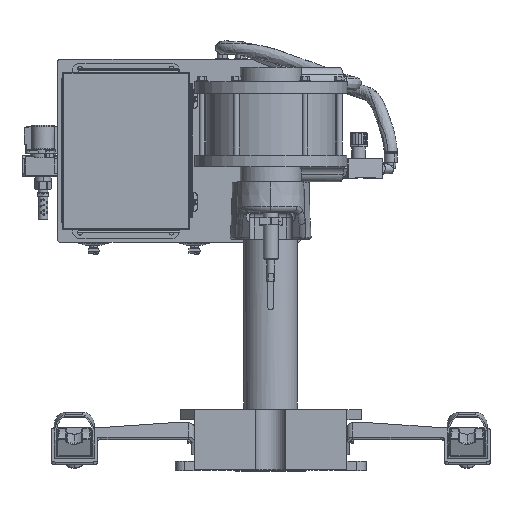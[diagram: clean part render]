
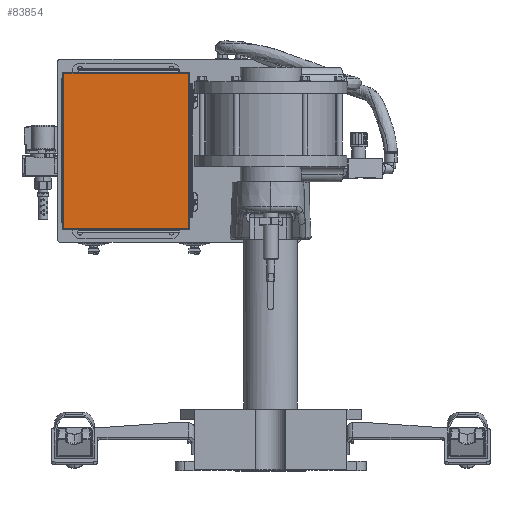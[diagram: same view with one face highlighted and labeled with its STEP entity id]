
A CAD part, top view. The second image highlights one B-rep face of the part: STEP entity #83854.
In plain terms, the highlighted planar face has unit normal (0, 0, 1) as drawn and (0.927, 0.375, 0) by its records, which use the part's own axes.
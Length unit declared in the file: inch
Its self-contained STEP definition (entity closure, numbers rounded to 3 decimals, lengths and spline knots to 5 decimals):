
#1913 = DIRECTION ( 'NONE',  ( 0., 0., -1. ) ) ;
#4133 = CARTESIAN_POINT ( 'NONE',  ( -12.9937, 8.45645, 8.6227 ) ) ;
#8228 = LINE ( 'NONE', #87511, #118083 ) ;
#13113 = EDGE_LOOP ( 'NONE', ( #50594, #113285, #40674, #138607 ) ) ;
#14345 = CARTESIAN_POINT ( 'NONE',  ( -16.83342, 17.96008, 8.6227 ) ) ;
#23446 = VECTOR ( 'NONE', #82101, 39.37008 ) ;
#39171 = EDGE_CURVE ( 'NONE', #98837, #146266, #69212, .T. ) ;
#40674 = ORIENTED_EDGE ( 'NONE', *, *, #82032, .F. ) ;
#43505 = VECTOR ( 'NONE', #1913, 39.37008 ) ;
#50594 = ORIENTED_EDGE ( 'NONE', *, *, #89452, .F. ) ;
#53091 = CARTESIAN_POINT ( 'NONE',  ( -16.83342, 17.96008, 0.3727 ) ) ;
#59702 = CARTESIAN_POINT ( 'NONE',  ( -13.01243, 8.50281, 0.3727 ) ) ;
#65689 = VECTOR ( 'NONE', #118861, 39.37008 ) ;
#69212 = LINE ( 'NONE', #105536, #65689 ) ;
#69544 = PLANE ( 'NONE',  #81277 ) ;
#70676 = VERTEX_POINT ( 'NONE', #59702 ) ;
#80725 = EDGE_CURVE ( 'NONE', #112562, #70676, #8228, .T. ) ;
#81277 = AXIS2_PLACEMENT_3D ( 'NONE', #4133, #129384, #83380 ) ;
#82032 = EDGE_CURVE ( 'NONE', #146266, #112562, #101774, .T. ) ;
#82101 = DIRECTION ( 'NONE',  ( 0., 0., 1. ) ) ;
#83380 = DIRECTION ( 'NONE',  ( 0., 0., -1. ) ) ;
#83854 = ADVANCED_FACE ( 'NONE', ( #118989 ), #69544, .T. ) ;
#87511 = CARTESIAN_POINT ( 'NONE',  ( -12.9937, 8.45645, 0.3727 ) ) ;
#89452 = EDGE_CURVE ( 'NONE', #70676, #98837, #143908, .T. ) ;
#92052 = CARTESIAN_POINT ( 'NONE',  ( -13.01243, 8.50281, 8.6227 ) ) ;
#98837 = VERTEX_POINT ( 'NONE', #141861 ) ;
#101774 = LINE ( 'NONE', #14345, #43505 ) ;
#105536 = CARTESIAN_POINT ( 'NONE',  ( -12.9937, 8.45645, 8.5727 ) ) ;
#109843 = CARTESIAN_POINT ( 'NONE',  ( -16.83342, 17.96008, 8.5727 ) ) ;
#112562 = VERTEX_POINT ( 'NONE', #53091 ) ;
#113285 = ORIENTED_EDGE ( 'NONE', *, *, #80725, .F. ) ;
#118083 = VECTOR ( 'NONE', #133461, 39.37008 ) ;
#118861 = DIRECTION ( 'NONE',  ( -0.375, 0.927, 0. ) ) ;
#118989 = FACE_OUTER_BOUND ( 'NONE', #13113, .T. ) ;
#129384 = DIRECTION ( 'NONE',  ( 0.927, 0.375, 0. ) ) ;
#133461 = DIRECTION ( 'NONE',  ( 0.375, -0.927, 0. ) ) ;
#138607 = ORIENTED_EDGE ( 'NONE', *, *, #39171, .F. ) ;
#141861 = CARTESIAN_POINT ( 'NONE',  ( -13.01243, 8.50281, 8.5727 ) ) ;
#143908 = LINE ( 'NONE', #92052, #23446 ) ;
#146266 = VERTEX_POINT ( 'NONE', #109843 ) ;
